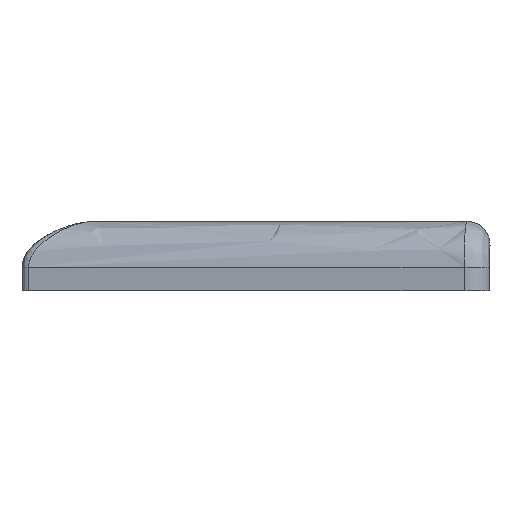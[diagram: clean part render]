
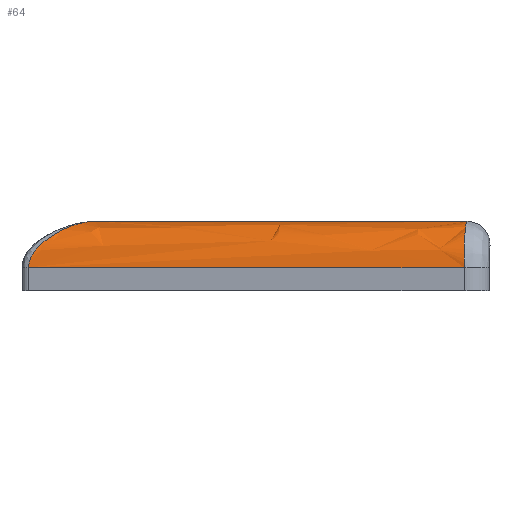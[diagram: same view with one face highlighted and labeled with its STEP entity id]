
A CAD part, left-side view. The second image highlights one B-rep face of the part: STEP entity #64.
In plain terms, the highlighted free-form (B-spline) face has degree [1, 2] with [2, 3] control points.
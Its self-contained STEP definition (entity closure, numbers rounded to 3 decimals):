
#64=ADVANCED_FACE('',(#139),#1164,.T.);
#139=FACE_OUTER_BOUND('',#218,.T.);
#218=EDGE_LOOP('',(#399,#400,#401,#402));
#399=ORIENTED_EDGE('',*,*,#665,.F.);
#400=ORIENTED_EDGE('',*,*,#755,.T.);
#401=ORIENTED_EDGE('',*,*,#681,.F.);
#402=ORIENTED_EDGE('',*,*,#701,.F.);
#665=EDGE_CURVE('',#1025,#1026,#836,.T.);
#681=EDGE_CURVE('',#1037,#1039,#953,.T.);
#701=EDGE_CURVE('',#1026,#1037,#962,.T.);
#755=EDGE_CURVE('',#1025,#1039,#994,.T.);
#836=(
BOUNDED_CURVE()
B_SPLINE_CURVE(3,(#2694,#2695,#2696,#2697,#2698,#2699,#2700),
 .UNSPECIFIED.,.F.,.F.)
B_SPLINE_CURVE_WITH_KNOTS((4,1,1,1,4),(-4.731,-3.304,
-2.131,-1.009,0.),
 .UNSPECIFIED.)
CURVE()
GEOMETRIC_REPRESENTATION_ITEM()
RATIONAL_B_SPLINE_CURVE((1.,1.,1.,1.,1.,1.,
1.))
REPRESENTATION_ITEM('')
);
#953=B_SPLINE_CURVE_WITH_KNOTS('',3,(#2748,#2749,#2750,#2751,#2752,#2753,
#2754,#2755,#2756,#2757,#2758,#2759),.UNSPECIFIED.,.F.,.F.,(4,1,1,1,1,1,
1,1,1,4),(0.,0.141,0.514,1.164,1.962,
2.826,3.708,4.581,7.835,11.404),
 .UNSPECIFIED.);
#962=B_SPLINE_CURVE_WITH_KNOTS('',1,(#2849,#2850),.UNSPECIFIED.,.F.,.F.,
(2,2),(-64.632,-7.581),.UNSPECIFIED.);
#994=B_SPLINE_CURVE_WITH_KNOTS('',1,(#3020,#3021),.UNSPECIFIED.,.F.,.F.,
(2,2),(-64.254,-15.517),.UNSPECIFIED.);
#1025=VERTEX_POINT('',#2510);
#1026=VERTEX_POINT('',#2511);
#1037=VERTEX_POINT('',#2522);
#1039=VERTEX_POINT('',#2524);
#1164=(
BOUNDED_SURFACE()
B_SPLINE_SURFACE(1,2,((#1648,#1649,#1650),(#1651,#1652,#1653)),
 .UNSPECIFIED.,.F.,.F.,.F.)
B_SPLINE_SURFACE_WITH_KNOTS((2,2),(3,3),(-121.2,189.233),(0.,9.425),
 .UNSPECIFIED.)
GEOMETRIC_REPRESENTATION_ITEM()
RATIONAL_B_SPLINE_SURFACE(((1.,0.707,1.),(1.,0.707,
1.)))
REPRESENTATION_ITEM('')
SURFACE()
);
#1648=CARTESIAN_POINT('',(-60.357,120.25,3.));
#1649=CARTESIAN_POINT('',(-60.357,120.25,9.));
#1650=CARTESIAN_POINT('',(-54.404,119.501,9.));
#1651=CARTESIAN_POINT('',(-99.143,-187.75,3.));
#1652=CARTESIAN_POINT('',(-99.143,-187.75,9.));
#1653=CARTESIAN_POINT('',(-93.19,-188.5,9.));
#2510=CARTESIAN_POINT('',(-77.575,-64.5,9.));
#2511=CARTESIAN_POINT('',(-83.575,-64.125,3.));
#2522=CARTESIAN_POINT('',(-76.447,-7.522,3.));
#2524=CARTESIAN_POINT('',(-71.486,-16.145,9.));
#2694=CARTESIAN_POINT('',(-77.575,-64.5,9.));
#2695=CARTESIAN_POINT('',(-78.519,-64.441,9.001));
#2696=CARTESIAN_POINT('',(-80.237,-64.334,8.586));
#2697=CARTESIAN_POINT('',(-82.216,-64.21,7.031));
#2698=CARTESIAN_POINT('',(-83.334,-64.14,5.093));
#2699=CARTESIAN_POINT('',(-83.575,-64.125,3.672));
#2700=CARTESIAN_POINT('',(-83.575,-64.125,3.));
#2748=CARTESIAN_POINT('',(-76.447,-7.522,3.));
#2749=CARTESIAN_POINT('',(-76.447,-7.522,3.056));
#2750=CARTESIAN_POINT('',(-76.445,-7.528,3.262));
#2751=CARTESIAN_POINT('',(-76.422,-7.591,3.723));
#2752=CARTESIAN_POINT('',(-76.337,-7.829,4.397));
#2753=CARTESIAN_POINT('',(-76.166,-8.285,5.136));
#2754=CARTESIAN_POINT('',(-75.923,-8.888,5.826));
#2755=CARTESIAN_POINT('',(-75.629,-9.565,6.441));
#2756=CARTESIAN_POINT('',(-74.99,-10.932,7.455));
#2757=CARTESIAN_POINT('',(-73.757,-13.161,8.58));
#2758=CARTESIAN_POINT('',(-72.318,-15.143,8.999));
#2759=CARTESIAN_POINT('',(-71.486,-16.145,9.));
#2849=CARTESIAN_POINT('',(-83.575,-64.125,3.));
#2850=CARTESIAN_POINT('',(-76.447,-7.522,3.));
#3020=CARTESIAN_POINT('',(-77.575,-64.5,9.));
#3021=CARTESIAN_POINT('',(-71.486,-16.145,9.));
